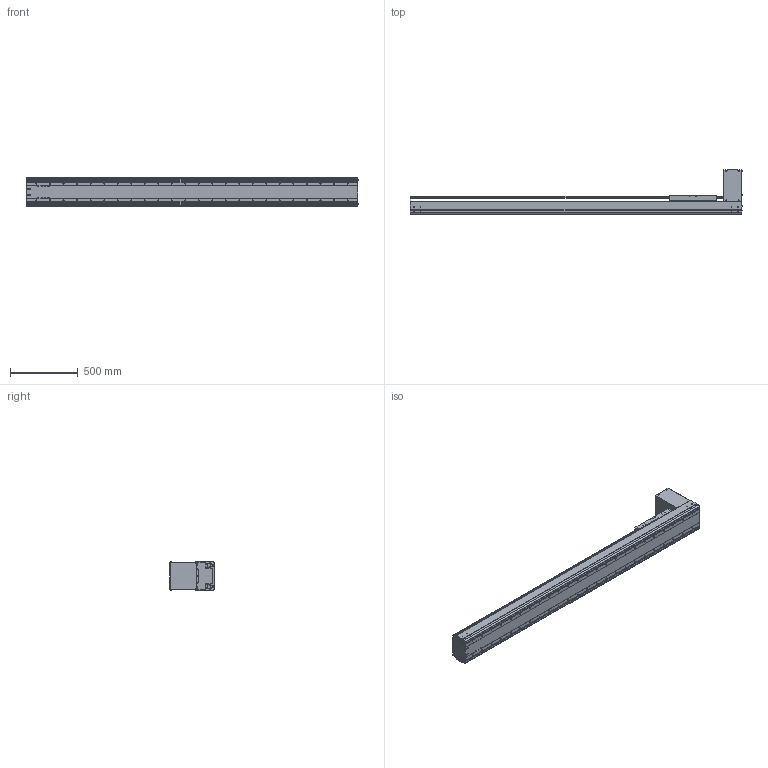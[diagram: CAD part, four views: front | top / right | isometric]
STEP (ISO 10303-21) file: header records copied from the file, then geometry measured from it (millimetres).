
FILE_DESCRIPTION((''),'2;1');
FILE_NAME('BE60J-BT-L19N-J5_IGS_PRT','2017-06-18T',(' '),(''),'PRO/ENGINEER BY PARAMETRIC TECHNOLOGY CORPORATION, 2015030','PRO/ENGINEER BY PARAMETRIC TECHNOLOGY CORPORATION, 2015030','');
FILE_SCHEMA(('CONFIG_CONTROL_DESIGN'));
Products named in the file (1): BE60J-BT-L19N-J5_IGS_PRT
Bounding box: 2454.4 x 327.5 x 214 mm (x, y, z)
Volume: 17535484.2 mm3; surface area: 5363166.7 mm2
Topology: 6 solids, 316 shells, 2379 faces, 6704 edges, 4496 vertices
Faces by surface type: cylinder 1170, plane 867, cone 246, torus 48, sphere 48
Entity records: 79564 total; most frequent: CARTESIAN_POINT 18337, DIRECTION 12790, ORIENTED_EDGE 11988, EDGE_CURVE 6530, AXIS2_PLACEMENT_3D 4854, VERTEX_POINT 4488, VECTOR 3082, LINE 3082
